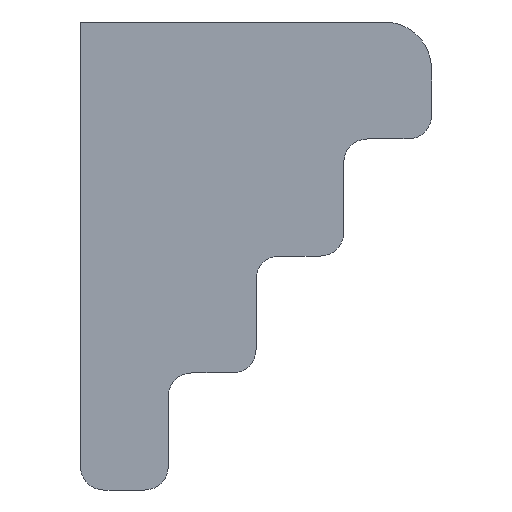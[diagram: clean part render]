
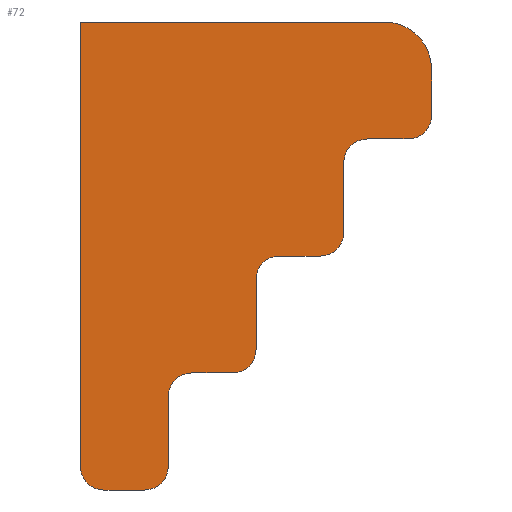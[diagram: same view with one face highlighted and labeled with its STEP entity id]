
A CAD part, left-side view. The second image highlights one B-rep face of the part: STEP entity #72.
In plain terms, the highlighted planar face has unit normal (-1, 0, 0).
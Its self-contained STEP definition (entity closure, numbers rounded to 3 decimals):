
#52=CIRCLE('',#444,8.);
#53=CIRCLE('',#445,4.);
#54=CIRCLE('',#446,4.);
#55=CIRCLE('',#447,4.);
#56=CIRCLE('',#448,4.);
#57=CIRCLE('',#449,4.);
#58=CIRCLE('',#450,4.);
#59=CIRCLE('',#451,4.);
#60=CIRCLE('',#452,4.);
#72=ADVANCED_FACE('',(#105),#93,.F.);
#93=PLANE('',#453);
#105=FACE_OUTER_BOUND('',#126,.T.);
#126=EDGE_LOOP('',(#195,#196,#197,#198,#199,#200,#201,#202,#203,#204,#205,
#206,#207,#208,#209,#210,#211,#212,#213));
#195=ORIENTED_EDGE('',*,*,#290,.F.);
#196=ORIENTED_EDGE('',*,*,#336,.T.);
#197=ORIENTED_EDGE('',*,*,#324,.F.);
#198=ORIENTED_EDGE('',*,*,#322,.F.);
#199=ORIENTED_EDGE('',*,*,#337,.T.);
#200=ORIENTED_EDGE('',*,*,#316,.F.);
#201=ORIENTED_EDGE('',*,*,#338,.T.);
#202=ORIENTED_EDGE('',*,*,#312,.F.);
#203=ORIENTED_EDGE('',*,*,#339,.T.);
#204=ORIENTED_EDGE('',*,*,#308,.F.);
#205=ORIENTED_EDGE('',*,*,#340,.T.);
#206=ORIENTED_EDGE('',*,*,#304,.F.);
#207=ORIENTED_EDGE('',*,*,#341,.T.);
#208=ORIENTED_EDGE('',*,*,#300,.F.);
#209=ORIENTED_EDGE('',*,*,#342,.T.);
#210=ORIENTED_EDGE('',*,*,#296,.F.);
#211=ORIENTED_EDGE('',*,*,#343,.T.);
#212=ORIENTED_EDGE('',*,*,#292,.F.);
#213=ORIENTED_EDGE('',*,*,#344,.T.);
#252=VERTEX_POINT('',#587);
#253=VERTEX_POINT('',#589);
#254=VERTEX_POINT('',#593);
#255=VERTEX_POINT('',#594);
#258=VERTEX_POINT('',#602);
#259=VERTEX_POINT('',#603);
#262=VERTEX_POINT('',#611);
#263=VERTEX_POINT('',#612);
#266=VERTEX_POINT('',#620);
#267=VERTEX_POINT('',#621);
#270=VERTEX_POINT('',#629);
#271=VERTEX_POINT('',#630);
#274=VERTEX_POINT('',#638);
#275=VERTEX_POINT('',#639);
#278=VERTEX_POINT('',#647);
#279=VERTEX_POINT('',#648);
#284=VERTEX_POINT('',#659);
#285=VERTEX_POINT('',#661);
#286=VERTEX_POINT('',#665);
#290=EDGE_CURVE('',#252,#253,#347,.T.);
#292=EDGE_CURVE('',#254,#255,#349,.T.);
#296=EDGE_CURVE('',#258,#259,#353,.T.);
#300=EDGE_CURVE('',#262,#263,#357,.T.);
#304=EDGE_CURVE('',#266,#267,#361,.T.);
#308=EDGE_CURVE('',#270,#271,#365,.T.);
#312=EDGE_CURVE('',#274,#275,#369,.T.);
#316=EDGE_CURVE('',#278,#279,#373,.T.);
#322=EDGE_CURVE('',#284,#285,#379,.T.);
#324=EDGE_CURVE('',#285,#286,#381,.T.);
#336=EDGE_CURVE('',#252,#286,#52,.T.);
#337=EDGE_CURVE('',#284,#279,#53,.T.);
#338=EDGE_CURVE('',#278,#275,#54,.T.);
#339=EDGE_CURVE('',#274,#271,#55,.T.);
#340=EDGE_CURVE('',#270,#267,#56,.T.);
#341=EDGE_CURVE('',#266,#263,#57,.T.);
#342=EDGE_CURVE('',#262,#259,#58,.T.);
#343=EDGE_CURVE('',#258,#255,#59,.T.);
#344=EDGE_CURVE('',#254,#253,#60,.T.);
#347=LINE('',#588,#386);
#349=LINE('',#592,#388);
#353=LINE('',#601,#392);
#357=LINE('',#610,#396);
#361=LINE('',#619,#400);
#365=LINE('',#628,#404);
#369=LINE('',#637,#408);
#373=LINE('',#646,#412);
#379=LINE('',#660,#418);
#381=LINE('',#664,#420);
#386=VECTOR('',#467,1.);
#388=VECTOR('',#471,1.);
#392=VECTOR('',#477,1.);
#396=VECTOR('',#483,1.);
#400=VECTOR('',#489,1.);
#404=VECTOR('',#495,1.);
#408=VECTOR('',#501,1.);
#412=VECTOR('',#507,1.);
#418=VECTOR('',#515,1.);
#420=VECTOR('',#519,1.);
#444=AXIS2_PLACEMENT_3D('',#680,#544,#545);
#445=AXIS2_PLACEMENT_3D('',#681,#546,#547);
#446=AXIS2_PLACEMENT_3D('',#682,#548,#549);
#447=AXIS2_PLACEMENT_3D('',#683,#550,#551);
#448=AXIS2_PLACEMENT_3D('',#684,#552,#553);
#449=AXIS2_PLACEMENT_3D('',#685,#554,#555);
#450=AXIS2_PLACEMENT_3D('',#686,#556,#557);
#451=AXIS2_PLACEMENT_3D('',#687,#558,#559);
#452=AXIS2_PLACEMENT_3D('',#688,#560,#561);
#453=AXIS2_PLACEMENT_3D('',#689,#562,#563);
#467=DIRECTION('',(0.,0.,-1.));
#471=DIRECTION('',(0.,1.,0.));
#477=DIRECTION('',(0.,0.,-1.));
#483=DIRECTION('',(0.,1.,0.));
#489=DIRECTION('',(0.,0.,-1.));
#495=DIRECTION('',(0.,1.,0.));
#501=DIRECTION('',(0.,0.,-1.));
#507=DIRECTION('',(0.,1.,0.));
#515=DIRECTION('',(0.,0.,1.));
#519=DIRECTION('',(0.,-1.,0.));
#544=DIRECTION('',(-1.,0.,0.));
#545=DIRECTION('',(0.,0.,-1.));
#546=DIRECTION('',(-1.,0.,0.));
#547=DIRECTION('',(0.,0.,-1.));
#548=DIRECTION('',(-1.,0.,0.));
#549=DIRECTION('',(0.,0.,-1.));
#550=DIRECTION('',(1.,0.,0.));
#551=DIRECTION('',(0.,0.,-1.));
#552=DIRECTION('',(-1.,0.,0.));
#553=DIRECTION('',(0.,0.,-1.));
#554=DIRECTION('',(1.,0.,0.));
#555=DIRECTION('',(0.,0.,-1.));
#556=DIRECTION('',(-1.,0.,0.));
#557=DIRECTION('',(0.,0.,-1.));
#558=DIRECTION('',(1.,0.,0.));
#559=DIRECTION('',(0.,0.,-1.));
#560=DIRECTION('',(-1.,0.,0.));
#561=DIRECTION('',(0.,0.,-1.));
#562=DIRECTION('',(1.,0.,0.));
#563=DIRECTION('',(0.,0.,-1.));
#587=CARTESIAN_POINT('',(85.,-15.,50.));
#588=CARTESIAN_POINT('',(85.,-15.,58.));
#589=CARTESIAN_POINT('',(85.,-15.,42.));
#592=CARTESIAN_POINT('',(85.,-15.,38.));
#593=CARTESIAN_POINT('',(85.,-11.,38.));
#594=CARTESIAN_POINT('',(85.,-4.,38.));
#601=CARTESIAN_POINT('',(85.,0.,38.));
#602=CARTESIAN_POINT('',(85.,0.,34.));
#603=CARTESIAN_POINT('',(85.,0.,22.));
#610=CARTESIAN_POINT('',(85.,0.,18.));
#611=CARTESIAN_POINT('',(85.,4.,18.));
#612=CARTESIAN_POINT('',(85.,11.,18.));
#619=CARTESIAN_POINT('',(85.,15.,18.));
#620=CARTESIAN_POINT('',(85.,15.,14.));
#621=CARTESIAN_POINT('',(85.,15.,2.));
#628=CARTESIAN_POINT('',(85.,15.,-2.));
#629=CARTESIAN_POINT('',(85.,19.,-2.));
#630=CARTESIAN_POINT('',(85.,26.,-2.));
#637=CARTESIAN_POINT('',(85.,30.,-2.));
#638=CARTESIAN_POINT('',(85.,30.,-6.));
#639=CARTESIAN_POINT('',(85.,30.,-18.));
#646=CARTESIAN_POINT('',(85.,30.,-22.));
#647=CARTESIAN_POINT('',(85.,34.,-22.));
#648=CARTESIAN_POINT('',(85.,41.,-22.));
#659=CARTESIAN_POINT('',(85.,45.,-18.));
#660=CARTESIAN_POINT('',(85.,45.,-22.));
#661=CARTESIAN_POINT('',(85.,45.,58.));
#664=CARTESIAN_POINT('',(85.,45.,58.));
#665=CARTESIAN_POINT('',(85.,-7.,58.));
#680=CARTESIAN_POINT('',(85.,-7.,50.));
#681=CARTESIAN_POINT('',(85.,41.,-18.));
#682=CARTESIAN_POINT('',(85.,34.,-18.));
#683=CARTESIAN_POINT('',(85.,26.,-6.));
#684=CARTESIAN_POINT('',(85.,19.,2.));
#685=CARTESIAN_POINT('',(85.,11.,14.));
#686=CARTESIAN_POINT('',(85.,4.,22.));
#687=CARTESIAN_POINT('',(85.,-4.,34.));
#688=CARTESIAN_POINT('',(85.,-11.,42.));
#689=CARTESIAN_POINT('',(85.,0.,0.));
